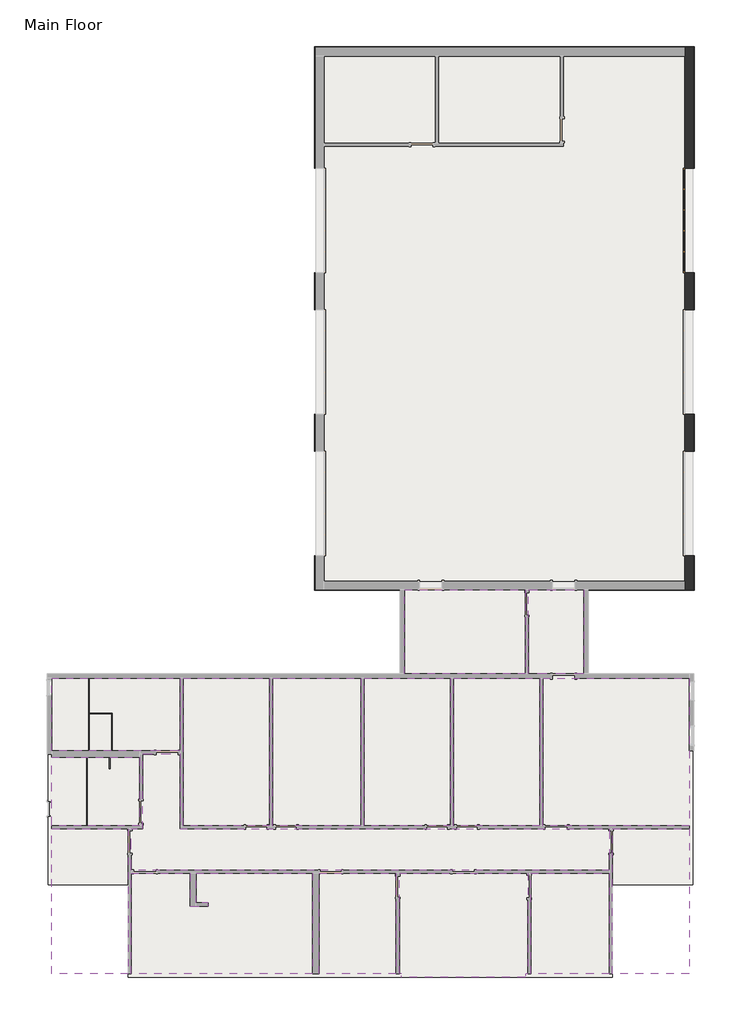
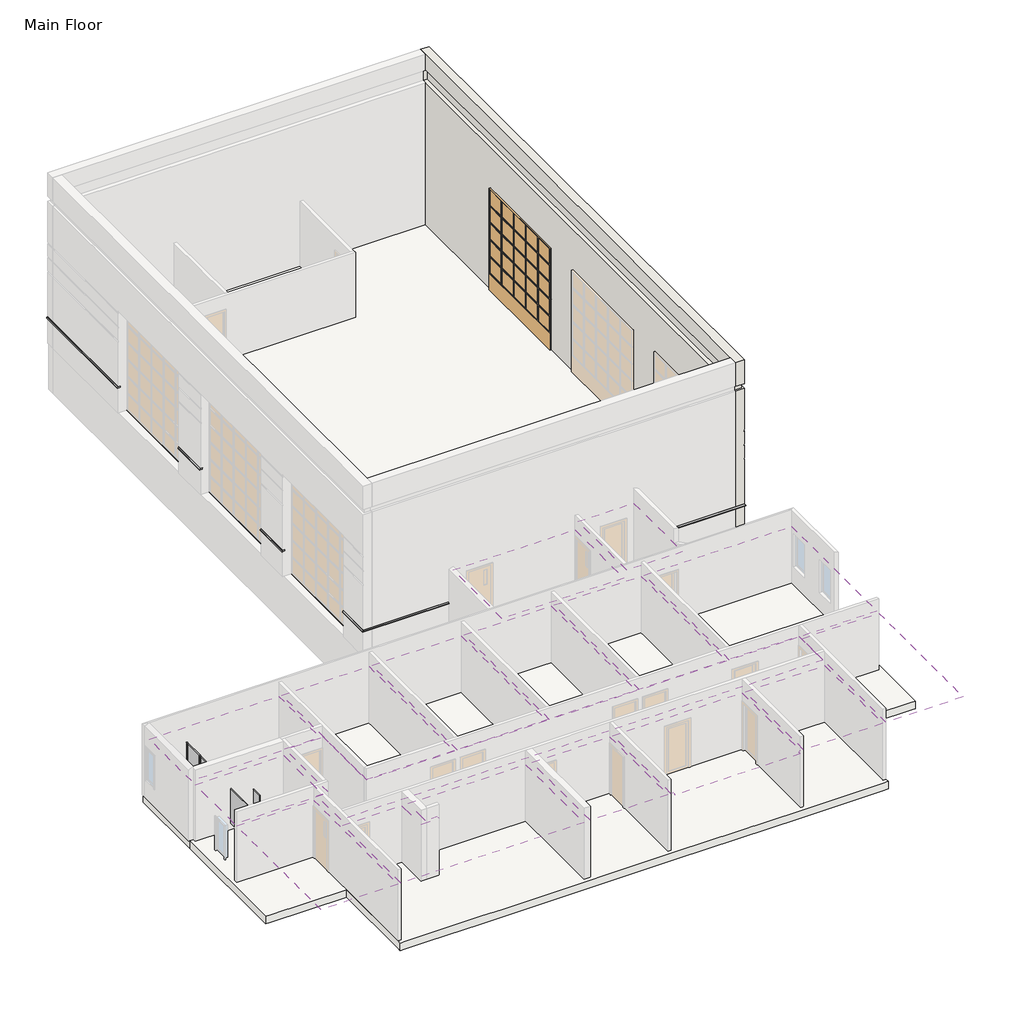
# One storey, part 3 of 3: 16 coverings, 8 proxies, 3 slabs, 1 door, 1 wall.
"""IFC4 building model written with IfcOpenShell, lengths in millimetres."""

from ifc_helpers import new_model, si_unit, frame, origin, place, context, project, spatial, polyline, outline, extrude, faceted_brep, transform, mapped, element, save
from components import proxy_7c43ef90, toilet_stall_accessible_side2_3d_80249481, proxy_d61e7b09, urinal_screen_3d_0714b669, overhead_sectional_glass_14_x_14_50861e5d

model = new_model("IFC4")

# Units and contexts
model_context = context("Model", 3, world=origin())
ifc_project = project(units=[si_unit("LENGTHUNIT", "METRE", prefix="MILLI")], contexts=[model_context])

# Site, building, storey
site = spatial("IfcSite", under=ifc_project)
building = spatial("IfcBuilding", under=site)
storey = spatial("IfcBuildingStorey", under=building, Name="Main Floor", Elevation=42672.0)

# Proxies
placement = place(None, origin())
element("IfcBuildingElementProxy", 1, Name="Wall Sweeps", at=placement, inside=storey, context=model_context, shape_type="Brep", body=[
    faceted_brep([(-14757.4292336, 21962.9855156, 43808.65), (-14849.5042336, 22055.0605156, 43808.65), (-14884.4292336, 22089.9855156, 43764.2), (-14884.4292336, 22089.9855156, 43738.8), (-14757.4292336, 21962.9855156, 43738.8), (549.2457664, 21962.9855156, 43808.65), (549.2457664, 21962.9855156, 43738.8), (676.2457664, 22089.9855156, 43738.8), (676.2457664, 22089.9855156, 43764.2), (641.3207664, 22055.0605156, 43808.65), (288.8957664, 21962.9855156, 43808.65), (288.8957664, 21962.9855156, 43738.8)], [[[0, 1, 2, 3, 4]], [[5, 6, 7, 8, 9]], [[1, 0, 10, 5, 9]], [[2, 1, 9, 8]], [[3, 2, 8, 7]], [[4, 3, 7, 6, 11]], [[0, 4, 11, 6, 5, 10]]]),
])
element("IfcBuildingElementProxy", 2, Name="Wall Sweeps", at=placement, inside=storey, context=model_context, shape_type="Brep", body=[
    faceted_brep([(-14757.4292336, -49.2894844, 43808.65), (-14849.5042336, -141.3644844, 43808.65), (-14884.4292336, -176.2894844, 43764.2), (-14884.4292336, -176.2894844, 43738.8), (-14757.4292336, -49.2894844, 43738.8), (-14757.4292336, 1254.0480156, 43808.65), (-14757.4292336, 1254.0480156, 43738.8), (-14849.5042336, 1254.0480156, 43738.8), (-14884.4292336, 1254.0480156, 43738.8), (-14884.4292336, 1254.0480156, 43764.2), (-14849.5042336, 1254.0480156, 43808.65)], [[[0, 1, 2, 3, 4]], [[5, 6, 7, 8, 9, 10]], [[1, 0, 5, 10]], [[2, 1, 10, 9]], [[3, 2, 9, 8]], [[4, 3, 8, 7, 6]], [[0, 4, 6, 5]]]),
    faceted_brep([(-14757.4292336, 5521.2480156, 43808.65), (-14849.5042336, 5521.2480156, 43808.65), (-14884.4292336, 5521.2480156, 43764.2), (-14884.4292336, 5521.2480156, 43738.8), (-14849.5042336, 5521.2480156, 43738.8), (-14757.4292336, 5521.2480156, 43738.8), (-14757.4292336, 7045.2480156, 43808.65), (-14757.4292336, 7045.2480156, 43738.8), (-14849.5042336, 7045.2480156, 43738.8), (-14884.4292336, 7045.2480156, 43738.8), (-14884.4292336, 7045.2480156, 43764.2), (-14849.5042336, 7045.2480156, 43808.65)], [[[0, 1, 2, 3, 4, 5]], [[6, 7, 8, 9, 10, 11]], [[1, 0, 6, 11]], [[2, 1, 11, 10]], [[3, 2, 10, 9]], [[5, 4, 3, 9, 8, 7]], [[0, 5, 7, 6]]]),
    faceted_brep([(-14757.4292336, 11312.4480156, 43808.65), (-14849.5042336, 11312.4480156, 43808.65), (-14884.4292336, 11312.4480156, 43764.2), (-14884.4292336, 11312.4480156, 43738.8), (-14849.5042336, 11312.4480156, 43738.8), (-14757.4292336, 11312.4480156, 43738.8), (-14757.4292336, 12836.4480156, 43808.65), (-14757.4292336, 12836.4480156, 43738.8), (-14849.5042336, 12836.4480156, 43738.8), (-14884.4292336, 12836.4480156, 43738.8), (-14884.4292336, 12836.4480156, 43764.2), (-14849.5042336, 12836.4480156, 43808.65)], [[[0, 1, 2, 3, 4, 5]], [[6, 7, 8, 9, 10, 11]], [[1, 0, 6, 11]], [[2, 1, 11, 10]], [[3, 2, 10, 9]], [[5, 4, 3, 9, 8, 7]], [[0, 5, 7, 6]]]),
    faceted_brep([(-14757.4292336, 17103.6480156, 43808.65), (-14849.5042336, 17103.6480156, 43808.65), (-14884.4292336, 17103.6480156, 43764.2), (-14884.4292336, 17103.6480156, 43738.8), (-14849.5042336, 17103.6480156, 43738.8), (-14757.4292336, 17103.6480156, 43738.8), (-14757.4292336, 21962.9855156, 43808.65), (-14757.4292336, 21962.9855156, 43738.8), (-14884.4292336, 22089.9855156, 43738.8), (-14884.4292336, 22089.9855156, 43764.2), (-14849.5042336, 22055.0605156, 43808.65), (-14757.4292336, 21702.6355156, 43808.65), (-14757.4292336, 21702.6355156, 43738.8)], [[[0, 1, 2, 3, 4, 5]], [[6, 7, 8, 9, 10]], [[1, 0, 11, 6, 10]], [[2, 1, 10, 9]], [[3, 2, 9, 8]], [[5, 4, 3, 8, 7, 12]], [[0, 5, 12, 7, 6, 11]]]),
])
element("IfcBuildingElementProxy", 3, Name="Wall Sweeps", at=placement, inside=storey, context=model_context, shape_type="Brep", body=[
    faceted_brep([(549.2457664, -49.2894844, 43808.65), (641.3207664, -141.3644844, 43808.65), (676.2457664, -176.2894844, 43764.2), (676.2457664, -176.2894844, 43738.8), (549.2457664, -49.2894844, 43738.8), (-3668.7417336, -49.2894844, 43808.65), (-3668.7417336, -49.2894844, 43738.8), (-3668.7417336, -141.3644844, 43738.8), (-3668.7417336, -176.2894844, 43738.8), (-3668.7417336, -176.2894844, 43764.2), (-3668.7417336, -141.3644844, 43808.65), (288.8957664, -49.2894844, 43808.65), (288.8957664, -49.2894844, 43738.8)], [[[0, 1, 2, 3, 4]], [[5, 6, 7, 8, 9, 10]], [[1, 0, 11, 5, 10]], [[2, 1, 10, 9]], [[3, 2, 9, 8]], [[4, 3, 8, 7, 6, 12]], [[0, 4, 12, 6, 5, 11]]]),
    faceted_brep([(-11379.2292336, -49.2894844, 43808.65), (-11379.2292336, -141.3644844, 43808.65), (-11379.2292336, -176.2894844, 43764.2), (-11379.2292336, -176.2894844, 43738.8), (-11379.2292336, -141.3644844, 43738.8), (-11379.2292336, -49.2894844, 43738.8), (-14757.4292336, -49.2894844, 43808.65), (-14757.4292336, -49.2894844, 43738.8), (-14884.4292336, -176.2894844, 43738.8), (-14884.4292336, -176.2894844, 43764.2), (-14849.5042336, -141.3644844, 43808.65), (-14497.0792336, -49.2894844, 43808.65), (-14497.0792336, -49.2894844, 43738.8)], [[[0, 1, 2, 3, 4, 5]], [[6, 7, 8, 9, 10]], [[1, 0, 11, 6, 10]], [[2, 1, 10, 9]], [[3, 2, 9, 8]], [[5, 4, 3, 8, 7, 12]], [[0, 5, 12, 7, 6, 11]]]),
])
element("IfcBuildingElementProxy", 4, Name="Wall Sweeps", at=placement, inside=storey, context=model_context, shape_type="Brep", body=[
    faceted_brep([(549.2457664, 21962.9855156, 43808.65), (641.3207664, 22055.0605156, 43808.65), (676.2457664, 22089.9855156, 43764.2), (676.2457664, 22089.9855156, 43738.8), (549.2457664, 21962.9855156, 43738.8), (549.2457664, 17103.6480156, 43808.65), (549.2457664, 17103.6480156, 43738.8), (641.3207664, 17103.6480156, 43738.8), (676.2457664, 17103.6480156, 43738.8), (676.2457664, 17103.6480156, 43764.2), (641.3207664, 17103.6480156, 43808.65)], [[[0, 1, 2, 3, 4]], [[5, 6, 7, 8, 9, 10]], [[1, 0, 5, 10]], [[2, 1, 10, 9]], [[3, 2, 9, 8]], [[4, 3, 8, 7, 6]], [[0, 4, 6, 5]]]),
    faceted_brep([(549.2457664, 12836.4480156, 43808.65), (641.3207664, 12836.4480156, 43808.65), (676.2457664, 12836.4480156, 43764.2), (676.2457664, 12836.4480156, 43738.8), (641.3207664, 12836.4480156, 43738.8), (549.2457664, 12836.4480156, 43738.8), (549.2457664, 11312.4480156, 43808.65), (549.2457664, 11312.4480156, 43738.8), (641.3207664, 11312.4480156, 43738.8), (676.2457664, 11312.4480156, 43738.8), (676.2457664, 11312.4480156, 43764.2), (641.3207664, 11312.4480156, 43808.65)], [[[0, 1, 2, 3, 4, 5]], [[6, 7, 8, 9, 10, 11]], [[1, 0, 6, 11]], [[2, 1, 11, 10]], [[3, 2, 10, 9]], [[5, 4, 3, 9, 8, 7]], [[0, 5, 7, 6]]]),
    faceted_brep([(549.2457664, 7045.2480156, 43808.65), (641.3207664, 7045.2480156, 43808.65), (676.2457664, 7045.2480156, 43764.2), (676.2457664, 7045.2480156, 43738.8), (641.3207664, 7045.2480156, 43738.8), (549.2457664, 7045.2480156, 43738.8), (549.2457664, 5521.2480156, 43808.65), (549.2457664, 5521.2480156, 43738.8), (641.3207664, 5521.2480156, 43738.8), (676.2457664, 5521.2480156, 43738.8), (676.2457664, 5521.2480156, 43764.2), (641.3207664, 5521.2480156, 43808.65)], [[[0, 1, 2, 3, 4, 5]], [[6, 7, 8, 9, 10, 11]], [[1, 0, 6, 11]], [[2, 1, 11, 10]], [[3, 2, 10, 9]], [[5, 4, 3, 9, 8, 7]], [[0, 5, 7, 6]]]),
    faceted_brep([(549.2457664, 1254.0480156, 43808.65), (641.3207664, 1254.0480156, 43808.65), (676.2457664, 1254.0480156, 43764.2), (676.2457664, 1254.0480156, 43738.8), (641.3207664, 1254.0480156, 43738.8), (549.2457664, 1254.0480156, 43738.8), (549.2457664, -49.2894844, 43808.65), (549.2457664, -49.2894844, 43738.8), (676.2457664, -176.2894844, 43738.8), (676.2457664, -176.2894844, 43764.2), (641.3207664, -141.3644844, 43808.65)], [[[0, 1, 2, 3, 4, 5]], [[6, 7, 8, 9, 10]], [[1, 0, 6, 10]], [[2, 1, 10, 9]], [[3, 2, 9, 8]], [[5, 4, 3, 8, 7]], [[0, 5, 7, 6]]]),
])
proxy_shape = proxy_7c43ef90(model_context)
element("IfcBuildingElementProxy", 5, Name="Toilet Stall-3D : 36\" x 60\" Clear", ObjectType="Toilet Stall-3D : 36\" x 60\" Clear", at=placement, inside=storey, context=model_context, shape_type="MappedRepresentation", body=[
    mapped(proxy_shape, transform((-23250.4635798, -6877.1269844, 42672.0), x_axis=(-1.0, 0.0, 0.0), y_axis=(0.0, -1.0, 0.0), z_axis=(0.0, 0.0, 1.0))),
])
toilet_stall_accessible_side2_3d_shape = toilet_stall_accessible_side2_3d_80249481(model_context)
element("IfcBuildingElementProxy", 6, Name="Toilet Stall-Accessible-Side2-3D : 60\" x  110\"", ObjectType="Toilet Stall-Accessible-Side2-3D : 60\" x  110\"", at=placement, inside=storey, context=model_context, shape_type="MappedRepresentation", body=[
    mapped(toilet_stall_accessible_side2_3d_shape, transform((-24874.4760798, -6877.1269844, 42672.0), x_axis=(-1.0, 0.0, 0.0), y_axis=(0.0, -1.0, 0.0), z_axis=(0.0, 0.0, 1.0))),
])
proxy_2_shape = proxy_d61e7b09(model_context)
element("IfcBuildingElementProxy", 7, Name="Toilet Stall-Accessible-Side2-3D : 60\" x 117\"", ObjectType="Toilet Stall-Accessible-Side2-3D : 60\" x 117\"", at=placement, inside=storey, context=model_context, shape_type="MappedRepresentation", body=[
    mapped(proxy_2_shape, transform((-24799.8635798, -6877.1269844, 42672.0), x_axis=(-1.0, 0.0, 0.0), y_axis=(0.0, -1.0, 0.0), z_axis=(0.0, 0.0, 1.0))),
])
urinal_screen_3d_shape = urinal_screen_3d_0714b669(model_context)
element("IfcBuildingElementProxy", 8, Name="Urinal Screen-3D : 36\" O.C.", ObjectType="Urinal Screen-3D : 36\" O.C.", at=placement, inside=storey, context=model_context, shape_type="MappedRepresentation", body=[
    mapped(urinal_screen_3d_shape, transform((-23272.7792336, -6877.1269844, 42672.0), x_axis=(-1.0, 0.0, 0.0), y_axis=(0.0, -1.0, 0.0), z_axis=(0.0, 0.0, 1.0))),
])

# Coverings
element("IfcCovering", 9, ObjectType="2' x 2' ACT System", at=placement, inside=storey, context=model_context, shape_type="SweptSolid", body=[
    extrude(outline(polyline([(-22383.7792336, -15862.3769844), (-22383.7792336, -11750.7519844), (-19985.0667336, -11750.7519844), (-19985.0667336, -13093.7769844), (-19245.2917336, -13093.7769844), (-19245.2917336, -12969.9519844), (-19724.7167336, -12969.9519844), (-19724.7167336, -11750.7519844), (-14955.8667336, -11750.7519844), (-14955.8667336, -15862.3769844), (-22383.7792336, -15862.3769844)])), frame((0.0, 0.0, 45110.4), z_axis=(0.0, 0.0, 1.0), x_axis=(1.0, 0.0, 0.0)), (0.0, 0.0, 1.0), 57.15),
])
element("IfcCovering", 10, ObjectType="2' x 2' ACT System", at=placement, inside=storey, context=model_context, shape_type="SweptSolid", body=[
    extrude(outline(polyline([(-14695.5167336, -15862.3769844), (-14695.5167336, -11750.7519844), (-11534.8042336, -11750.7519844), (-11534.8042336, -15862.3769844), (-14695.5167336, -15862.3769844)])), frame((0.0, 0.0, 45110.4), z_axis=(0.0, 0.0, 1.0), x_axis=(1.0, 0.0, 0.0)), (0.0, 0.0, 1.0), 57.15),
])
element("IfcCovering", 11, ObjectType="2' x 2' ACT System", at=placement, inside=storey, context=model_context, shape_type="SweptSolid", body=[
    extrude(outline(polyline([(-6150.0042336, -11750.7519844), (-6150.0042336, -15862.3769844), (-6245.2542336, -15862.3769844), (-6245.2542336, -16017.9519844), (-11315.7292336, -16017.9519844), (-11315.7292336, -15862.3769844), (-11410.9792336, -15862.3769844), (-11410.9792336, -11750.7519844), (-6150.0042336, -11750.7519844)])), frame((0.0, 0.0, 45110.4), z_axis=(0.0, 0.0, 1.0), x_axis=(1.0, 0.0, 0.0)), (0.0, 0.0, 1.0), 57.15),
])
element("IfcCovering", 12, ObjectType="2' x 2' ACT System", at=placement, inside=storey, context=model_context, shape_type="SweptSolid", body=[
    extrude(outline(polyline([(-2797.2042336, -11750.7519844), (-2797.2042336, -15862.3769844), (-6026.1792336, -15862.3769844), (-6026.1792336, -11750.7519844), (-2797.2042336, -11750.7519844)])), frame((0.0, 0.0, 45110.4), z_axis=(0.0, 0.0, 1.0), x_axis=(1.0, 0.0, 0.0)), (0.0, 0.0, 1.0), 57.15),
])
element("IfcCovering", 13, ObjectType="2' x 2' ACT System", at=placement, inside=storey, context=model_context, shape_type="SweptSolid", body=[
    extrude(outline(polyline([(-5529.2917336, -3778.3269844), (461.9332664, -3778.3269844), (461.9332664, -6746.9519844), (461.9332664, -9798.1269844), (-5529.2917336, -9798.1269844), (-5529.2917336, -3778.3269844)])), frame((0.0, 0.0, 45110.4), z_axis=(0.0, 0.0, 1.0), x_axis=(1.0, 0.0, 0.0)), (0.0, 0.0, 1.0), 57.15),
])
element("IfcCovering", 14, ObjectType="2' x 2' ACT System", at=placement, inside=storey, context=model_context, shape_type="SweptSolid", body=[
    extrude(outline(polyline([(-9186.8917336, -3778.3269844), (-5653.1167336, -3778.3269844), (-5653.1167336, -9798.1269844), (-9186.8917336, -9798.1269844), (-9186.8917336, -3778.3269844)])), frame((0.0, 0.0, 45110.4), z_axis=(0.0, 0.0, 1.0), x_axis=(1.0, 0.0, 0.0)), (0.0, 0.0, 1.0), 57.15),
])
element("IfcCovering", 15, ObjectType="2' x 2' ACT System", at=placement, inside=storey, context=model_context, shape_type="SweptSolid", body=[
    extrude(outline(polyline([(-12844.4917336, -3778.3269844), (-9310.7167336, -3778.3269844), (-9310.7167336, -9798.1269844), (-12844.4917336, -9798.1269844), (-12844.4917336, -3778.3269844)])), frame((0.0, 0.0, 45110.4), z_axis=(0.0, 0.0, 1.0), x_axis=(1.0, 0.0, 0.0)), (0.0, 0.0, 1.0), 57.15),
])
element("IfcCovering", 16, ObjectType="2' x 2' ACT System", at=placement, inside=storey, context=model_context, shape_type="SweptSolid", body=[
    extrude(outline(polyline([(-16592.5792336, -3778.3269844), (-12968.3167336, -3778.3269844), (-12968.3167336, -9798.1269844), (-16592.5792336, -9798.1269844), (-16592.5792336, -3778.3269844)])), frame((0.0, 0.0, 45110.4), z_axis=(0.0, 0.0, 1.0), x_axis=(1.0, 0.0, 0.0)), (0.0, 0.0, 1.0), 57.15),
])
element("IfcCovering", 17, ObjectType="2' x 2' ACT System", at=placement, inside=storey, context=model_context, shape_type="SweptSolid", body=[
    extrude(outline(polyline([(-20261.2917336, -3778.3269844), (-16716.4042336, -3778.3269844), (-16716.4042336, -9798.1269844), (-20261.2917336, -9798.1269844), (-20261.2917336, -3778.3269844)])), frame((0.0, 0.0, 45110.4), z_axis=(0.0, 0.0, 1.0), x_axis=(1.0, 0.0, 0.0)), (0.0, 0.0, 1.0), 57.15),
])
element("IfcCovering", 18, ObjectType="GWB on Mtl. Stud", at=placement, inside=storey, context=model_context, shape_type="SweptSolid", body=[
    extrude(outline(polyline([(-25642.9167336, -3778.3269844), (-20385.1167336, -3778.3269844), (-20385.1167336, -6746.9519844), (-21988.4917336, -6746.9519844), (-25642.9167336, -6746.9519844), (-25642.9167336, -3778.3269844)])), frame((0.0, 0.0, 45110.4), z_axis=(0.0, 0.0, 1.0), x_axis=(1.0, 0.0, 0.0)), (0.0, 0.0, 1.0), 107.95),
])
element("IfcCovering", 19, ObjectType="GWB on Mtl. Stud", at=placement, inside=storey, context=model_context, shape_type="SweptSolid", body=[
    extrude(outline(polyline([(-22050.4042336, -9798.1269844), (-25642.9167336, -9798.1269844), (-25642.9167336, -7007.3019844), (-22050.4042336, -7007.3019844), (-22050.4042336, -9798.1269844)])), frame((0.0, 0.0, 45110.4), z_axis=(0.0, 0.0, 1.0), x_axis=(1.0, 0.0, 0.0)), (0.0, 0.0, 1.0), 107.95),
])
element("IfcCovering", 20, ObjectType="GWB on Mtl. Stud", at=placement, inside=storey, context=model_context, shape_type="SweptSolid", body=[
    extrude(outline(polyline([(-25642.9167336, -15862.3769844), (-25642.9167336, -9921.9519844), (-22507.6042336, -9921.9519844), (-22507.6042336, -15862.3769844), (-25642.9167336, -15862.3769844)])), frame((0.0, 0.0, 45110.4), z_axis=(0.0, 0.0, 1.0), x_axis=(1.0, 0.0, 0.0)), (0.0, 0.0, 1.0), 107.95),
])
element("IfcCovering", 21, ObjectType="GWB on Mtl. Stud", at=placement, inside=storey, context=model_context, shape_type="SweptSolid", body=[
    extrude(outline(polyline([(461.9332664, -15862.3769844), (-2673.3792336, -15862.3769844), (-2673.3792336, -9921.9519844), (461.9332664, -9921.9519844), (461.9332664, -15862.3769844)])), frame((0.0, 0.0, 45110.4), z_axis=(0.0, 0.0, 1.0), x_axis=(1.0, 0.0, 0.0)), (0.0, 0.0, 1.0), 107.95),
])
element("IfcCovering", 22, ObjectType="GWB on Mtl. Stud", at=placement, inside=storey, context=model_context, shape_type="SweptSolid", body=[
    extrude(outline(polyline([(-20385.1167336, -6870.7769844), (-20385.1167336, -9921.9519844), (-2797.2042336, -9921.9519844), (-2797.2042336, -11626.9269844), (-22383.7792336, -11626.9269844), (-22383.7792336, -9921.9519844), (-21926.5792336, -9921.9519844), (-21926.5792336, -6870.7769844), (-20385.1167336, -6870.7769844)])), frame((0.0, 0.0, 45262.8), z_axis=(0.0, 0.0, 1.0), x_axis=(1.0, 0.0, 0.0)), (0.0, 0.0, 1.0), 107.95),
])
element("IfcCovering", 23, ObjectType="GWB on Mtl. Stud", at=placement, inside=storey, context=model_context, shape_type="SweptSolid", body=[
    extrude(outline(polyline([(-6243.6667336, -141.3644844), (-6243.6667336, -3591.0019844), (-11191.9042336, -3591.0019844), (-11191.9042336, -141.3644844), (-6243.6667336, -141.3644844)])), frame((0.0, 0.0, 45110.4), z_axis=(0.0, 0.0, 1.0), x_axis=(1.0, 0.0, 0.0)), (0.0, 0.0, 1.0), 107.95),
])
element("IfcCovering", 24, ObjectType="GWB on Mtl. Stud", at=placement, inside=storey, context=model_context, shape_type="SweptSolid", body=[
    extrude(outline(polyline([(-3856.0667336, -3591.0019844), (-6119.8417336, -3591.0019844), (-6119.8417336, -141.3644844), (-3856.0667336, -141.3644844), (-3856.0667336, -3591.0019844)])), frame((0.0, 0.0, 45415.2), z_axis=(0.0, 0.0, 1.0), x_axis=(1.0, 0.0, 0.0)), (0.0, 0.0, 1.0), 107.95),
])

# Door
overhead_sectional_glass_14_x_14_shape = overhead_sectional_glass_14_x_14_50861e5d(model_context)
element("IfcDoor", 25, ObjectType="Overhead-Sectional Glass : 14' x 14'", at=placement, inside=storey, context=model_context, shape_type="MappedRepresentation", body=[
    mapped(overhead_sectional_glass_14_x_14_shape, transform((465.1082664, 14970.0480156, 42672.0), x_axis=(0.0, 1.0, 0.0), y_axis=(-1.0, 0.0, 0.0), z_axis=(0.0, 0.0, 1.0))),
])

# Slabs
element("IfcSlab", 26, ObjectType="Wood Truss  Joist 12\" - Carpet Finish ", at=placement, inside=storey, context=model_context, shape_type="Brep", body=[
    faceted_brep([(-25798.4917336, -6877.1269844, 42348.15), (-25798.4917336, -3622.7519844, 42348.15), (617.5082664, -3622.7519844, 42348.15), (617.5082664, -6746.9519844, 42348.15), (617.5082664, -7040.6394844, 42348.15), (617.5082664, -7802.6394844, 42348.15), (617.5082664, -8869.4394844, 42348.15), (617.5082664, -9631.4394844, 42348.15), (617.5082664, -12230.1769844, 42348.15), (461.9332664, -12230.1769844, 42348.15), (-2673.3792336, -12230.1769844, 42348.15), (-2673.3792336, -15862.3769844, 42348.15), (-2673.3792336, -16017.9519844, 42348.15), (-2887.6917336, -16017.9519844, 42348.15), (-3802.0917336, -16017.9519844, 42348.15), (-5021.2917336, -16017.9519844, 42348.15), (-5935.6917336, -16017.9519844, 42348.15), (-6245.2542336, -16017.9519844, 42348.15), (-11315.7292336, -16017.9519844, 42348.15), (-11625.2917336, -16017.9519844, 42348.15), (-12539.6917336, -16017.9519844, 42348.15), (-13758.8917336, -16017.9519844, 42348.15), (-14673.2917336, -16017.9519844, 42348.15), (-14978.0917336, -16017.9519844, 42348.15), (-15892.4917336, -16017.9519844, 42348.15), (-17111.6917336, -16017.9519844, 42348.15), (-18026.0917336, -16017.9519844, 42348.15), (-18330.8917336, -16017.9519844, 42348.15), (-19245.2917336, -16017.9519844, 42348.15), (-21378.8917336, -16017.9519844, 42348.15), (-22293.2917336, -16017.9519844, 42348.15), (-22507.6042336, -16017.9519844, 42348.15), (-22507.6042336, -15862.3769844, 42348.15), (-22507.6042336, -12230.1769844, 42348.15), (-25642.9167336, -12230.1769844, 42348.15), (-25798.4917336, -12230.1769844, 42348.15), (-25798.4917336, -6877.1269844, 42672.0), (-25798.4917336, -12230.1769844, 42672.0), (-25642.9167336, -12230.1769844, 42672.0), (-22507.6042336, -12230.1769844, 42672.0), (-22507.6042336, -15862.3769844, 42672.0), (-22507.6042336, -16017.9519844, 42672.0), (-22293.2917336, -16017.9519844, 42672.0), (-21378.8917336, -16017.9519844, 42672.0), (-19245.2917336, -16017.9519844, 42672.0), (-18330.8917336, -16017.9519844, 42672.0), (-18026.0917336, -16017.9519844, 42672.0), (-17111.6917336, -16017.9519844, 42672.0), (-15892.4917336, -16017.9519844, 42672.0), (-14978.0917336, -16017.9519844, 42672.0), (-14673.2917336, -16017.9519844, 42672.0), (-13758.8917336, -16017.9519844, 42672.0), (-12539.6917336, -16017.9519844, 42672.0), (-11625.2917336, -16017.9519844, 42672.0), (-11315.7292336, -16017.9519844, 42672.0), (-6245.2542336, -16017.9519844, 42672.0), (-5935.6917336, -16017.9519844, 42672.0), (-5021.2917336, -16017.9519844, 42672.0), (-3802.0917336, -16017.9519844, 42672.0), (-2887.6917336, -16017.9519844, 42672.0), (-2673.3792336, -16017.9519844, 42672.0), (-2673.3792336, -15862.3769844, 42672.0), (-2673.3792336, -12230.1769844, 42672.0), (461.9332664, -12230.1769844, 42672.0), (617.5082664, -12230.1769844, 42672.0), (617.5082664, -9631.4394844, 42672.0), (617.5082664, -8869.4394844, 42672.0), (617.5082664, -7802.6394844, 42672.0), (617.5082664, -7040.6394844, 42672.0), (617.5082664, -6746.9519844, 42672.0), (617.5082664, -3622.7519844, 42672.0), (-25798.4917336, -3622.7519844, 42672.0)], [[[0, 1, 2, 3, 4, 5, 6, 7, 8, 9, 10, 11, 12, 13, 14, 15, 16, 17, 18, 19, 20, 21, 22, 23, 24, 25, 26, 27, 28, 29, 30, 31, 32, 33, 34, 35]], [[36, 37, 38, 39, 40, 41, 42, 43, 44, 45, 46, 47, 48, 49, 50, 51, 52, 53, 54, 55, 56, 57, 58, 59, 60, 61, 62, 63, 64, 65, 66, 67, 68, 69, 70, 71]], [[1, 0, 36, 71]], [[2, 1, 71, 70]], [[3, 2, 70, 69]], [[8, 7, 6, 5, 4, 3, 69, 68, 67, 66, 65, 64]], [[10, 9, 8, 64, 63, 62]], [[12, 11, 10, 62, 61, 60]], [[31, 30, 29, 28, 27, 26, 25, 24, 23, 22, 21, 20, 19, 18, 17, 16, 15, 14, 13, 12, 60, 59, 58, 57, 56, 55, 54, 53, 52, 51, 50, 49, 48, 47, 46, 45, 44, 43, 42, 41]], [[33, 32, 31, 41, 40, 39]], [[35, 34, 33, 39, 38, 37]], [[0, 35, 37, 36]]]),
])
element("IfcSlab", 27, ObjectType="12\" Concrete", at=placement, inside=storey, context=model_context, shape_type="SweptSolid", body=[
    extrude(outline(polyline([(-14520.8917336, 187.2480156), (-14520.8917336, 21726.4480156), (312.7082664, 21726.4480156), (312.7082664, 187.2480156), (-14520.8917336, 187.2480156)])), frame((0.0, 0.0, 42367.2), z_axis=(0.0, 0.0, 1.0), x_axis=(1.0, 0.0, 0.0)), (0.0, 0.0, 1.0), 304.8),
])
element("IfcSlab", 28, ObjectType="LW Concrete on Metal Deck", at=placement, inside=storey, context=model_context, shape_type="SweptSolid", body=[
    extrude(outline(polyline([(-11379.2292336, -141.3644844), (-3668.7417336, -141.3644844), (-3668.7417336, -3591.0019844), (-11379.2292336, -3591.0019844), (-11379.2292336, -141.3644844)])), frame((0.0, 0.0, 42567.225), z_axis=(0.0, 0.0, 1.0), x_axis=(1.0, 0.0, 0.0)), (0.0, 0.0, 1.0), 104.775),
])

# Wall
element("IfcWall", 29, ObjectType="Exterior - Brick and CMU", at=placement, inside=storey, context=model_context, shape_type="Brep", body=[
    faceted_brep([(288.8957664, -141.3644844, 49987.2), (288.8957664, 211.0605156, 49987.2), (288.8957664, 21702.6355156, 49987.2), (288.8957664, 22055.0605156, 49987.2), (288.8957664, 22055.0605156, 48971.2), (288.8957664, 21978.8605156, 48971.2), (288.8957664, 21978.8605156, 48768.0), (288.8957664, 22055.0605156, 48768.0), (288.8957664, 22055.0605156, 47006.9333333), (288.8957664, 22029.6605156, 47006.9333333), (288.8957664, 22029.6605156, 46939.2), (288.8957664, 22055.0605156, 46939.2), (288.8957664, 22055.0605156, 46397.3333333), (288.8957664, 22029.6605156, 46397.3333333), (288.8957664, 22029.6605156, 46329.6), (288.8957664, 22055.0605156, 46329.6), (288.8957664, 22055.0605156, 45787.7333333), (288.8957664, 22029.6605156, 45787.7333333), (288.8957664, 22029.6605156, 45720.0), (288.8957664, 22055.0605156, 45720.0), (288.8957664, 22055.0605156, 43808.65), (288.8957664, 21962.9855156, 43808.65), (288.8957664, 21962.9855156, 43738.8), (288.8957664, 22055.0605156, 43738.8), (288.8957664, 22055.0605156, 42672.0), (288.8957664, 21702.6355156, 42672.0), (288.8957664, 17103.6480156, 42672.0), (288.8957664, 17103.6480156, 47040.8), (288.8957664, 12836.4480156, 47040.8), (288.8957664, 12836.4480156, 42672.0), (288.8957664, 11312.4480156, 42672.0), (288.8957664, 11312.4480156, 47040.8), (288.8957664, 7045.2480156, 47040.8), (288.8957664, 7045.2480156, 42672.0), (288.8957664, 5521.2480156, 42672.0), (288.8957664, 5521.2480156, 47040.8), (288.8957664, 1254.0480156, 47040.8), (288.8957664, 1254.0480156, 42672.0), (288.8957664, 211.0605156, 42672.0), (288.8957664, -141.3644844, 42672.0), (288.8957664, -141.3644844, 43738.8), (288.8957664, -49.2894844, 43738.8), (288.8957664, -49.2894844, 43808.65), (288.8957664, -141.3644844, 43808.65), (288.8957664, -141.3644844, 48768.0), (288.8957664, -65.1644844, 48768.0), (288.8957664, -65.1644844, 48971.2), (288.8957664, -141.3644844, 48971.2), (288.8957664, 21867.7355156, 49314.1), (288.8957664, 21702.6355156, 49314.1), (288.8957664, 211.0605156, 49314.1), (288.8957664, 45.9605156, 49314.1), (288.8957664, 45.9605156, 48768.0), (288.8957664, 211.0605156, 48768.0), (288.8957664, 21702.6355156, 48768.0), (288.8957664, 21867.7355156, 48768.0), (641.3207664, 22055.0605156, 49987.2), (641.3207664, -141.3644844, 49987.2), (641.3207664, -141.3644844, 48971.2), (641.3207664, 22055.0605156, 48971.2), (641.3207664, -141.3644844, 42672.0), (641.3207664, 1254.0480156, 42672.0), (641.3207664, 1254.0480156, 43738.8), (641.3207664, -141.3644844, 43738.8), (641.3207664, 1254.0480156, 47040.8), (641.3207664, 5521.2480156, 47040.8), (641.3207664, 5521.2480156, 47006.9333333), (641.3207664, 7045.2480156, 47006.9333333), (641.3207664, 7045.2480156, 47040.8), (641.3207664, 11312.4480156, 47040.8), (641.3207664, 11312.4480156, 47006.9333333), (641.3207664, 12836.4480156, 47006.9333333), (641.3207664, 12836.4480156, 47040.8), (641.3207664, 17103.6480156, 47040.8), (641.3207664, 17103.6480156, 47006.9333333), (641.3207664, 22055.0605156, 47006.9333333), (641.3207664, 22055.0605156, 48768.0), (641.3207664, -141.3644844, 48768.0), (641.3207664, -141.3644844, 47006.9333333), (641.3207664, 1254.0480156, 47006.9333333), (641.3207664, 5521.2480156, 42672.0), (641.3207664, 7045.2480156, 42672.0), (641.3207664, 7045.2480156, 43738.8), (641.3207664, 5521.2480156, 43738.8), (641.3207664, 17103.6480156, 42672.0), (641.3207664, 22055.0605156, 42672.0), (641.3207664, 22055.0605156, 43738.8), (641.3207664, 17103.6480156, 43738.8), (641.3207664, 11312.4480156, 42672.0), (641.3207664, 12836.4480156, 42672.0), (641.3207664, 12836.4480156, 43738.8), (641.3207664, 11312.4480156, 43738.8), (641.3207664, 17103.6480156, 45787.7333333), (641.3207664, 22055.0605156, 45787.7333333), (641.3207664, 22055.0605156, 46329.6), (641.3207664, 17103.6480156, 46329.6), (641.3207664, 22055.0605156, 45720.0), (641.3207664, 17103.6480156, 45720.0), (641.3207664, 17103.6480156, 43808.65), (641.3207664, 22055.0605156, 43808.65), (641.3207664, -141.3644844, 45787.7333333), (641.3207664, 1254.0480156, 45787.7333333), (641.3207664, 1254.0480156, 46329.6), (641.3207664, -141.3644844, 46329.6), (641.3207664, 1254.0480156, 45720.0), (641.3207664, -141.3644844, 45720.0), (641.3207664, -141.3644844, 43808.65), (641.3207664, 1254.0480156, 43808.65), (641.3207664, 5521.2480156, 45787.7333333), (641.3207664, 7045.2480156, 45787.7333333), (641.3207664, 7045.2480156, 46329.6), (641.3207664, 5521.2480156, 46329.6), (641.3207664, 7045.2480156, 45720.0), (641.3207664, 5521.2480156, 45720.0), (641.3207664, 5521.2480156, 43808.65), (641.3207664, 7045.2480156, 43808.65), (641.3207664, 11312.4480156, 45787.7333333), (641.3207664, 12836.4480156, 45787.7333333), (641.3207664, 12836.4480156, 46329.6), (641.3207664, 11312.4480156, 46329.6), (641.3207664, 12836.4480156, 45720.0), (641.3207664, 11312.4480156, 45720.0), (641.3207664, 11312.4480156, 43808.65), (641.3207664, 12836.4480156, 43808.65), (641.3207664, 17103.6480156, 46397.3333333), (641.3207664, 22055.0605156, 46397.3333333), (641.3207664, 22055.0605156, 46939.2), (641.3207664, 17103.6480156, 46939.2), (641.3207664, -141.3644844, 46397.3333333), (641.3207664, 1254.0480156, 46397.3333333), (641.3207664, 1254.0480156, 46939.2), (641.3207664, -141.3644844, 46939.2), (641.3207664, 5521.2480156, 46397.3333333), (641.3207664, 7045.2480156, 46397.3333333), (641.3207664, 7045.2480156, 46939.2), (641.3207664, 5521.2480156, 46939.2), (641.3207664, 11312.4480156, 46397.3333333), (641.3207664, 12836.4480156, 46397.3333333), (641.3207664, 12836.4480156, 46939.2), (641.3207664, 11312.4480156, 46939.2), (549.2457664, 22055.0605156, 42672.0), (549.2457664, 17103.6480156, 42672.0), (549.2457664, -141.3644844, 42672.0), (549.2457664, 1254.0480156, 42672.0), (549.2457664, 5521.2480156, 42672.0), (549.2457664, 7045.2480156, 42672.0), (549.2457664, 11312.4480156, 42672.0), (549.2457664, 12836.4480156, 42672.0), (615.9207664, -141.3644844, 45720.0), (615.9207664, -141.3644844, 45787.7333333), (615.9207664, -141.3644844, 46329.6), (615.9207664, -141.3644844, 46397.3333333), (615.9207664, -141.3644844, 46939.2), (615.9207664, -141.3644844, 47006.9333333), (615.9207664, 1254.0480156, 47006.9333333), (615.9207664, 1254.0480156, 46939.2), (615.9207664, 1254.0480156, 46397.3333333), (615.9207664, 1254.0480156, 46329.6), (615.9207664, 1254.0480156, 45787.7333333), (615.9207664, 1254.0480156, 45720.0), (549.2457664, 1254.0480156, 43808.65), (549.2457664, 1254.0480156, 43738.8), (549.2457664, 5521.2480156, 43738.8), (549.2457664, 5521.2480156, 43808.65), (615.9207664, 5521.2480156, 45720.0), (615.9207664, 5521.2480156, 45787.7333333), (615.9207664, 5521.2480156, 46329.6), (615.9207664, 5521.2480156, 46397.3333333), (615.9207664, 5521.2480156, 46939.2), (615.9207664, 5521.2480156, 47006.9333333), (549.2457664, 11312.4480156, 43738.8), (549.2457664, 11312.4480156, 43808.65), (615.9207664, 11312.4480156, 45720.0), (615.9207664, 11312.4480156, 45787.7333333), (615.9207664, 11312.4480156, 46329.6), (615.9207664, 11312.4480156, 46397.3333333), (615.9207664, 11312.4480156, 46939.2), (615.9207664, 11312.4480156, 47006.9333333), (615.9207664, 7045.2480156, 47006.9333333), (615.9207664, 7045.2480156, 46939.2), (615.9207664, 7045.2480156, 46397.3333333), (615.9207664, 7045.2480156, 46329.6), (615.9207664, 7045.2480156, 45787.7333333), (615.9207664, 7045.2480156, 45720.0), (549.2457664, 7045.2480156, 43808.65), (549.2457664, 7045.2480156, 43738.8), (549.2457664, 17103.6480156, 43738.8), (549.2457664, 17103.6480156, 43808.65), (615.9207664, 17103.6480156, 45720.0), (615.9207664, 17103.6480156, 45787.7333333), (615.9207664, 17103.6480156, 46329.6), (615.9207664, 17103.6480156, 46397.3333333), (615.9207664, 17103.6480156, 46939.2), (615.9207664, 17103.6480156, 47006.9333333), (615.9207664, 12836.4480156, 47006.9333333), (615.9207664, 12836.4480156, 46939.2), (615.9207664, 12836.4480156, 46397.3333333), (615.9207664, 12836.4480156, 46329.6), (615.9207664, 12836.4480156, 45787.7333333), (615.9207664, 12836.4480156, 45720.0), (549.2457664, 12836.4480156, 43808.65), (549.2457664, 12836.4480156, 43738.8), (615.9207664, 22029.6605156, 45787.7333333), (615.9207664, 22029.6605156, 45720.0), (615.9207664, 22029.6605156, 46397.3333333), (615.9207664, 22029.6605156, 46329.6), (615.9207664, 22029.6605156, 47006.9333333), (615.9207664, 22029.6605156, 46939.2), (549.2457664, 21962.9855156, 43808.65), (549.2457664, 21962.9855156, 43738.8), (549.2457664, -49.2894844, 43808.65), (549.2457664, -49.2894844, 43738.8), (565.1207664, 21978.8605156, 48768.0), (565.1207664, -65.1644844, 48768.0), (565.1207664, 21978.8605156, 48971.2), (565.1207664, -65.1644844, 48971.2), (453.9957664, 21867.7355156, 49314.1), (453.9957664, 45.9605156, 49314.1), (453.9957664, 45.9605156, 48768.0), (453.9957664, 21867.7355156, 48768.0)], [[[0, 1, 2, 3, 4, 5, 6, 7, 8, 9, 10, 11, 12, 13, 14, 15, 16, 17, 18, 19, 20, 21, 22, 23, 24, 25, 26, 27, 28, 29, 30, 31, 32, 33, 34, 35, 36, 37, 38, 39, 40, 41, 42, 43, 44, 45, 46, 47], [48, 49, 50, 51, 52, 53, 54, 55]], [[56, 57, 58, 59]], [[60, 61, 62, 63]], [[64, 65, 66, 67, 68, 69, 70, 71, 72, 73, 74, 75, 76, 77, 78, 79]], [[80, 81, 82, 83]], [[84, 85, 86, 87]], [[88, 89, 90, 91]], [[92, 93, 94, 95]], [[96, 97, 98, 99]], [[100, 101, 102, 103]], [[104, 105, 106, 107]], [[108, 109, 110, 111]], [[112, 113, 114, 115]], [[116, 117, 118, 119]], [[120, 121, 122, 123]], [[124, 125, 126, 127]], [[128, 129, 130, 131]], [[132, 133, 134, 135]], [[136, 137, 138, 139]], [[3, 2, 1, 0, 57, 56]], [[24, 140, 141, 26, 25]], [[142, 39, 38, 37, 143]], [[144, 34, 33, 145]], [[146, 30, 29, 147]], [[3, 56, 59, 4]], [[140, 24, 23, 86, 85]], [[93, 16, 15, 94]], [[19, 96, 99, 20]], [[125, 12, 11, 126]], [[75, 8, 7, 76]], [[140, 85, 84, 141]], [[60, 142, 143, 61]], [[80, 144, 145, 81]], [[88, 146, 147, 89]], [[57, 0, 47, 58]], [[39, 142, 60, 63, 40]], [[148, 149, 100, 103, 150, 151, 128, 131, 152, 153, 78, 77, 44, 43, 106, 105]], [[36, 64, 79, 154, 155, 130, 129, 156, 157, 102, 101, 158, 159, 104, 107, 160, 161, 62, 61, 143, 37]], [[64, 36, 35, 65]], [[65, 35, 34, 144, 80, 83, 162, 163, 114, 113, 164, 165, 108, 111, 166, 167, 132, 135, 168, 169, 66]], [[69, 31, 30, 146, 88, 91, 170, 171, 122, 121, 172, 173, 116, 119, 174, 175, 136, 139, 176, 177, 70]], [[31, 69, 68, 32]], [[32, 68, 67, 178, 179, 134, 133, 180, 181, 110, 109, 182, 183, 112, 115, 184, 185, 82, 81, 145, 33]], [[73, 27, 26, 141, 84, 87, 186, 187, 98, 97, 188, 189, 92, 95, 190, 191, 124, 127, 192, 193, 74]], [[27, 73, 72, 28]], [[28, 72, 71, 194, 195, 138, 137, 196, 197, 118, 117, 198, 199, 120, 123, 200, 201, 90, 89, 147, 29]], [[189, 202, 17, 16, 93, 92]], [[203, 188, 97, 96, 19, 18]], [[202, 203, 18, 17]], [[202, 189, 188, 203]], [[173, 198, 117, 116]], [[199, 172, 121, 120]], [[198, 173, 172, 199]], [[165, 182, 109, 108]], [[183, 164, 113, 112]], [[182, 165, 164, 183]], [[149, 158, 101, 100]], [[159, 148, 105, 104]], [[158, 149, 148, 159]], [[191, 204, 13, 12, 125, 124]], [[205, 190, 95, 94, 15, 14]], [[204, 205, 14, 13]], [[204, 191, 190, 205]], [[175, 196, 137, 136]], [[197, 174, 119, 118]], [[196, 175, 174, 197]], [[167, 180, 133, 132]], [[181, 166, 111, 110]], [[180, 167, 166, 181]], [[151, 156, 129, 128]], [[157, 150, 103, 102]], [[156, 151, 150, 157]], [[193, 206, 9, 8, 75, 74]], [[207, 192, 127, 126, 11, 10]], [[206, 207, 10, 9]], [[206, 193, 192, 207]], [[177, 194, 71, 70]], [[195, 176, 139, 138]], [[194, 177, 176, 195]], [[169, 178, 67, 66]], [[179, 168, 135, 134]], [[178, 169, 168, 179]], [[153, 154, 79, 78]], [[155, 152, 131, 130]], [[154, 153, 152, 155]], [[187, 208, 21, 20, 99, 98]], [[209, 186, 87, 86, 23, 22]], [[208, 209, 22, 21]], [[208, 187, 186, 209]], [[171, 200, 123, 122]], [[201, 170, 91, 90]], [[200, 171, 170, 201]], [[163, 184, 115, 114]], [[185, 162, 83, 82]], [[184, 163, 162, 185]], [[210, 160, 107, 106, 43, 42]], [[161, 211, 41, 40, 63, 62]], [[160, 210, 211, 161]], [[211, 210, 42, 41]], [[212, 213, 45, 44, 77, 76, 7, 6]], [[214, 212, 6, 5]], [[215, 214, 5, 4, 59, 58, 47, 46]], [[213, 212, 214, 215]], [[213, 215, 46, 45]], [[216, 217, 51, 50, 49, 48]], [[218, 219, 55, 54, 53, 52]], [[217, 218, 52, 51]], [[217, 216, 219, 218]], [[219, 216, 48, 55]]]),
])

save(model, "model.ifc")
